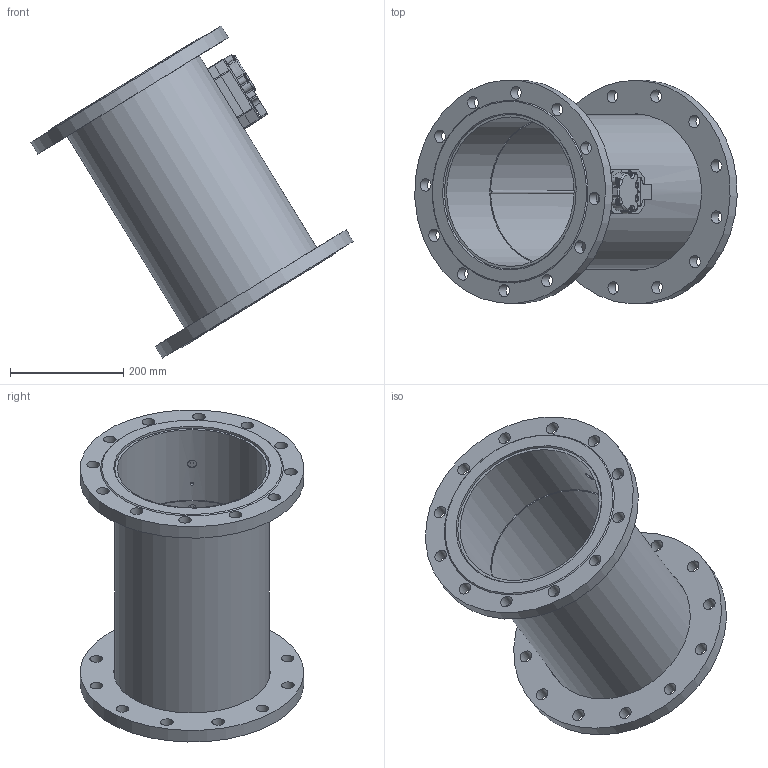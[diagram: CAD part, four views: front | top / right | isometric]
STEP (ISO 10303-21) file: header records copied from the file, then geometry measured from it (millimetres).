
FILE_DESCRIPTION( ( 'Unknown' ), '1' );
FILE_NAME( 'H:/440 pour vente_mai_2013/step_2/DN250_PN10_inox_450mm_rempli.stp', 'Unknown', ( 'Unknown' ), ( 'Unknown' ), 'PSStep 15.0.49', 'Unknown', ' ' );
FILE_SCHEMA( ( 'AUTOMOTIVE_DESIGN { 1 0 10303 214 1 1 1 1 }' ) );
Length unit declared in the file: millimetre
Products named in the file (9): 440_tête_rempli; 0440P011_rempli; 0440P012_rempli; 0440P060_rempli; Assem1; 0440P202_rempli; 0440P225_rempli; 0440P241_rempli; 0440P240_rempli
Assembly tree (10 placements, depth 3):
  Assem1
    0440P202_rempli
    0440P225_rempli  x2
    0440P241_rempli
    0440P240_rempli  x2
    440_tête_rempli
      0440P011_rempli
      0440P012_rempli
      0440P060_rempli
Bounding box: 569.25 x 394.71 x 586.31 mm (x, y, z)
Volume: 5414168.8 mm3; surface area: 1224861.3 mm2
Topology: 9 solids, 14 shells, 284 faces, 723 edges, 459 vertices
Faces by surface type: cylinder 104, plane 79, cone 57, torus 29, bspline 15
Full cylindrical faces by diameter (mm): 2.2 x1, 2.459 x2, 2.5 x1, 3 x2, 3.242 x4, 4.1 x1, 5.03 x1, 6 x1, 6.2 x6, 6.917 x2, 10.2 x2, 16 x2, 20 x4, 22 x24, 264 x1, 273 x1, 276.5 x2, 395 x2
Entity records: 13734 total; most frequent: CARTESIAN_POINT 5540, DIRECTION 1305, ORIENTED_EDGE 1106, EDGE_CURVE 553, AXIS2_PLACEMENT_3D 550, VERTEX_POINT 385, EDGE_LOOP 378, FACE_OUTER_BOUND 305
